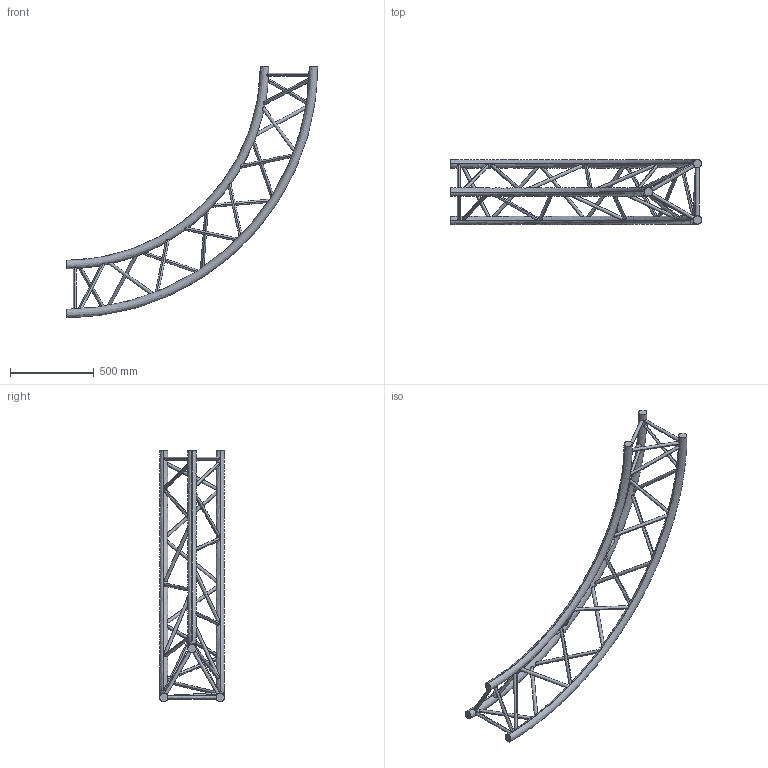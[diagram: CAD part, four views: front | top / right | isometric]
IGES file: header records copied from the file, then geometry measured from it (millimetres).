
Start section: SolidWorks IGES file using analytic representation for surfaces
Global section: file name: K:\BIBLIO\asd_biblio\SX390\Cercles\SXC39PI\SXC39300PI\SXC39300PI.IGS; native system: SolidWorks 2009; preprocessor: SolidWorks 2009; author: des3; date: 091021.134603; units: millimetre
Bounding box: 1500 x 387 x 1500 mm (x, y, z)
Surface area: 1658309.3 mm2 (no closed solid volume)
Topology: 0 solids, 0 shells, 72 faces, 5082 edges, 5082 vertices
Faces by surface type: revolution 60, bspline 12
